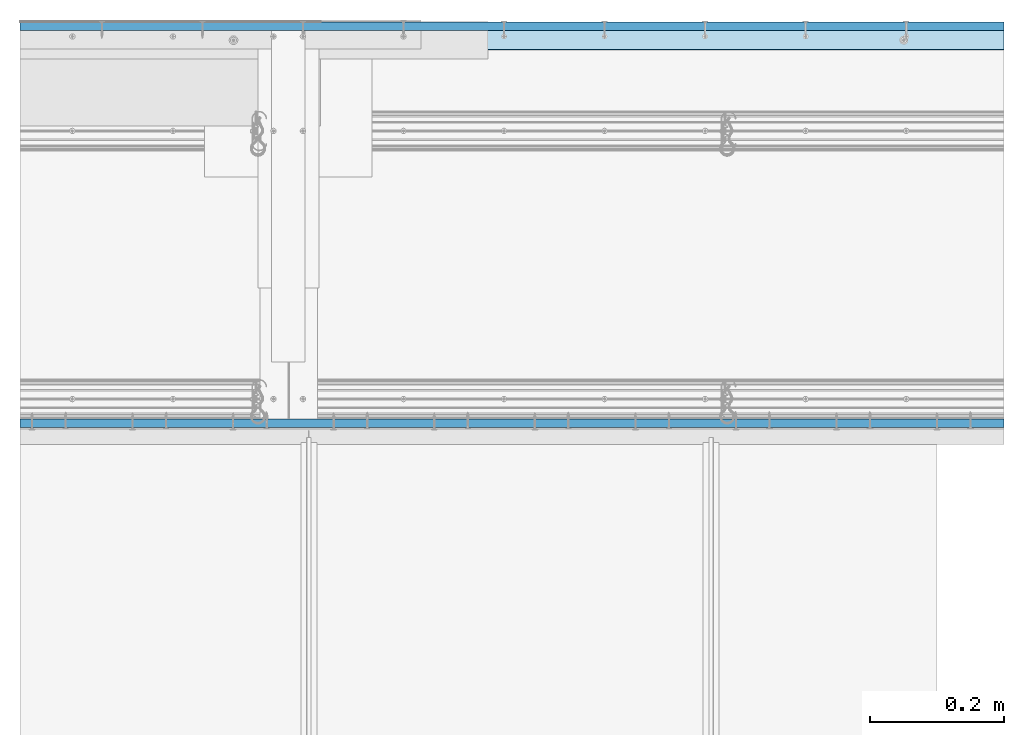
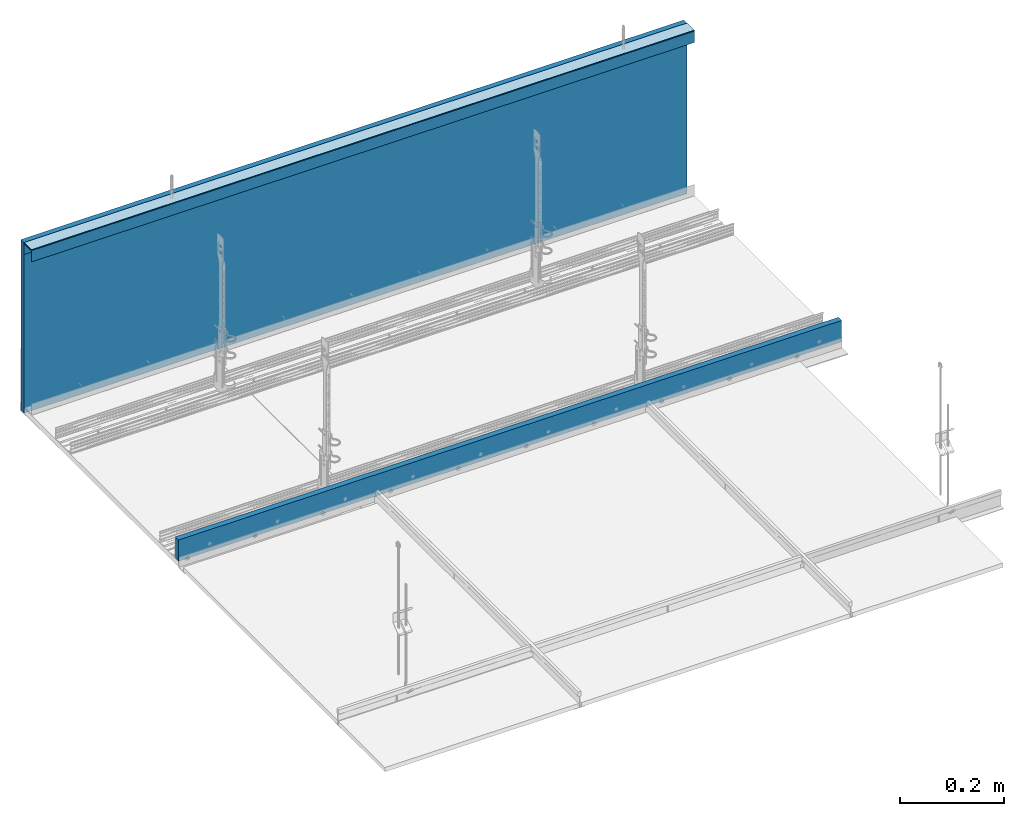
# One storey, part 2 of 79: 4 slabs.
"""IFC2X3 building model written with IfcOpenShell, lengths in millimetres."""

from ifc_helpers import new_model, entity, si_unit, converted_unit, direction, frame, origin, origin_with_axes, place, context, project, spatial, faceted_brep, element, save


model = new_model("IFC2X3")

# Units and contexts
model_context = context("Model", 3, precision=1e-05, world=origin(), true_north=direction((0.0, 1.0, 0.0)))
ifc_project = project(units=[si_unit("LENGTHUNIT", "METRE", prefix="MILLI"), si_unit("AREAUNIT", "SQUARE_METRE"), si_unit("VOLUMEUNIT", "CUBIC_METRE"), converted_unit("PLANEANGLEUNIT", "DEGREE", entity("IfcPlaneAngleMeasure", 0.01745), si_unit("PLANEANGLEUNIT", "RADIAN"), dimensions=[0, 0, 0, 0, 0, 0, 0]), si_unit("SOLIDANGLEUNIT", "STERADIAN"), si_unit("MASSUNIT", "GRAM"), si_unit("TIMEUNIT", "SECOND"), si_unit("THERMODYNAMICTEMPERATUREUNIT", "DEGREE_CELSIUS"), si_unit("LUMINOUSINTENSITYUNIT", "LUMEN")], contexts=[model_context])

# Site, building, storey
site_placement = place(None, origin_with_axes())
site = spatial("IfcSite", under=ifc_project, at=site_placement, Name="Default Site", CompositionType="ELEMENT")
building_placement = place(site_placement, origin_with_axes())
building = spatial("IfcBuilding", under=site, at=building_placement, Name="Default Building", CompositionType="ELEMENT")
storey_placement = place(building_placement, origin_with_axes())
storey = spatial("IfcBuildingStorey", under=building, at=storey_placement, Name="Default Building Storey", CompositionType="ELEMENT", Elevation=0.0)

# Slabs
slab_1_placement = place(storey_placement, frame((3375.515397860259, 4346.496456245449, 1386.219706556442), z_axis=(7.268591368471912e-14, -6.858158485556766e-13, 1.0), x_axis=(1.0, -1.018434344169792e-16, -7.98876711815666e-14)))
element("IfcSlab", 1, at=slab_1_placement, inside=storey, Name="Taśma uszczelniająca piankowa RIGIPS", context=model_context, shape_type="Brep", body=[
    faceted_brep([(217.5252203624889, -2125.073169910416, -5.000000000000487), (-1250.490264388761, -2125.073169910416, -5.000000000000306), (-1250.490264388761, -2125.016629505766, -5.864971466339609), (217.5252203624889, -2125.016629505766, -5.864971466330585), (-1250.490264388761, -2152.930534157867, -5.000000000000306), (-1250.490264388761, -2152.979821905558, -6.006369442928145), (217.5252203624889, -2152.979821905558, -6.006369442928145), (217.5252203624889, -2152.930534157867, -5.000000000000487)], [[[0, 1, 2, 3]], [[4, 5, 2, 1]], [[6, 7, 0, 3]], [[7, 4, 1, 0]], [[3, 2, 5, 6]], [[6, 5, 4, 7]]]),
])
slab_2_placement = place(storey_placement, frame((3326.808963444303, 2247.916634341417, 1090.835078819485), z_axis=(0.0, 3.330669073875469e-16, -1.0), x_axis=(1.0, 0.0, 0.0)))
element("IfcSlab", 2, at=slab_2_placement, inside=storey, Name="Płyta gipsowo-kartonowa RIGIPS PRO (4PRO™)", context=model_context, shape_type="Brep", body=[
    faceted_brep([(266.2316547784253, 26.00000000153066, -289.3782582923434), (266.2316547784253, 13.50000000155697, -289.3782582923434), (-1201.783829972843, 13.50000000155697, -289.3782582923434), (-1201.783829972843, 26.00000000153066, -289.3782582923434), (266.2316547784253, 13.50000000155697, 109.5498612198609), (-1201.783829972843, 13.50000000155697, 109.5498612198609), (266.2316547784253, 26.00000000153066, 109.5498612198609), (-1201.783829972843, 26.00000000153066, 109.5498612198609)], [[[0, 1, 2, 3]], [[1, 4, 5, 2]], [[4, 6, 7, 5]], [[6, 0, 3, 7]], [[7, 3, 2, 5]], [[0, 6, 4, 1]]]),
])
slab_3_placement = place(storey_placement, frame((4925.555743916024, 3691.282667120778, 1494.188337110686), z_axis=(-5.694276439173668e-14, -6.860206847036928e-13, -1.0), x_axis=(-1.0, -2.15429261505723e-15, 1.019744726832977e-13)))
element("IfcSlab", 3, at=slab_3_placement, inside=storey, Name="Profil RIGIPS UD 30 ULTRASTIL®", context=model_context, shape_type="Brep", body=[
    faceted_brep([(2800.530610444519, -1469.916032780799, 140.9749999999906), (2800.530610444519, -1469.3660327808, 140.9749999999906), (2800.530610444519, -1469.3660327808, 114.7749999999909), (2800.530610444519, -1469.375882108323, 114.6498524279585), (2800.530610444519, -1469.405187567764, 114.527786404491), (2800.530610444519, -1469.45322756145, 114.4118076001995), (2800.530610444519, -1469.518819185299, 114.304771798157), (2800.530610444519, -1469.600347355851, 114.2093145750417), (2800.530610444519, -1469.695804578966, 114.1277864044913), (2800.530610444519, -1469.802840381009, 114.0621947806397), (2800.530610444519, -1469.9188191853, 114.0141547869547), (2800.530610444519, -1470.040885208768, 113.9848493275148), (2800.530610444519, -1470.1660327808, 113.9749999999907), (2800.530610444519, -1472.0160327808, 113.9749999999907), (2800.530610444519, -1472.163550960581, 113.9887186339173), (2800.530610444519, -1472.306009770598, 114.0294040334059), (2800.530610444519, -1472.43852336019, 114.0956608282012), (2800.530610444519, -1472.556546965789, 114.1852166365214), (2800.530610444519, -1472.656032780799, 114.2949999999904), (2800.530610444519, -1473.6760327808, 115.654999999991), (2800.530610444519, -1473.775518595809, 115.76478336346), (2800.530610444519, -1473.89354220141, 115.8543391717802), (2800.530610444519, -1474.026055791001, 115.9205959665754), (2800.530610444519, -1474.168514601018, 115.9612813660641), (2800.530610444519, -1474.3160327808, 115.9749999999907), (2800.530610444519, -1493.6160327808, 115.9749999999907), (2800.530610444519, -1493.763550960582, 115.9612813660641), (2800.530610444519, -1493.906009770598, 115.9205959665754), (2800.530610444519, -1494.038523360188, 115.8543391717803), (2800.530610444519, -1494.156546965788, 115.76478336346), (2800.530610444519, -1494.2560327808, 115.654999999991), (2800.530610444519, -1495.276032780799, 114.2949999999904), (2800.530610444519, -1495.37551859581, 114.1852166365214), (2800.530610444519, -1495.493542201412, 114.0956608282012), (2800.530610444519, -1495.626055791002, 114.029404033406), (2800.530610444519, -1495.768514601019, 113.9887186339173), (2800.530610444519, -1495.9160327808, 113.9749999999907), (2800.530610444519, -1497.7660327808, 113.9749999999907), (2800.530610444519, -1497.891180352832, 113.9848493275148), (2800.530610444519, -1498.0132463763, 114.0141547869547), (2800.530610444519, -1498.129225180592, 114.0621947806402), (2800.530610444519, -1498.236260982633, 114.1277864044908), (2800.530610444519, -1498.331718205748, 114.2093145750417), (2800.530610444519, -1498.413246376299, 114.3047717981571), (2800.530610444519, -1498.478838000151, 114.4118076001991), (2800.530610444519, -1498.526877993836, 114.5277864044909), (2800.530610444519, -1498.556183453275, 114.6498524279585), (2800.530610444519, -1498.566032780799, 114.7749999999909), (2800.53061044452, -1498.566032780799, 140.9749999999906), (2800.53061044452, -1498.016032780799, 140.9749999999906), (2800.530610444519, -1498.016032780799, 114.7749999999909), (2800.530610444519, -1498.012954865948, 114.735891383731), (2800.530610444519, -1498.003796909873, 114.6977457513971), (2800.530610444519, -1497.988784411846, 114.6615023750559), (2800.530610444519, -1497.968287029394, 114.628053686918), (2800.530610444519, -1497.942809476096, 114.5982233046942), (2800.530610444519, -1497.912979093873, 114.5727457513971), (2800.530610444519, -1497.879530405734, 114.5522483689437), (2800.530610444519, -1497.843287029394, 114.5372358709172), (2800.530610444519, -1497.80514139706, 114.5280779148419), (2800.530610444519, -1497.7660327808, 114.5249999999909), (2800.530610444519, -1495.9160327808, 114.5249999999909), (2800.530610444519, -1495.869933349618, 114.5292870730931), (2800.530610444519, -1495.825414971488, 114.542001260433), (2800.530610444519, -1495.784004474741, 114.5627065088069), (2800.530610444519, -1495.747122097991, 114.5906926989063), (2800.530610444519, -1495.716032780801, 114.6249999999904), (2800.530610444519, -1494.6960327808, 115.9849999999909), (2800.530610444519, -1494.52815046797, 116.1702594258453), (2800.530610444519, -1494.328985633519, 116.3213848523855), (2800.530610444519, -1494.105368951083, 116.433193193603), (2800.530610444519, -1493.864969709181, 116.5018498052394), (2800.530610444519, -1493.6160327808, 116.5249999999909), (2800.530610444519, -1474.3160327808, 116.5249999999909), (2800.530610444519, -1474.067095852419, 116.5018498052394), (2800.530610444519, -1473.826696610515, 116.4331931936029), (2800.530610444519, -1473.60307992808, 116.3213848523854), (2800.530610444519, -1473.40391509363, 116.1702594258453), (2800.530610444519, -1473.2360327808, 115.9849999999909), (2800.530610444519, -1472.216032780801, 114.6249999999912), (2800.530610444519, -1472.184943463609, 114.5906926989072), (2800.530610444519, -1472.148061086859, 114.5627065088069), (2800.530610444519, -1472.106650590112, 114.5420012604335), (2800.530610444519, -1472.062132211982, 114.5292870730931), (2800.530610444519, -1472.0160327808, 114.5249999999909), (2800.530610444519, -1470.1660327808, 114.5249999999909), (2800.530610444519, -1470.12692416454, 114.5280779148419), (2800.530610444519, -1470.088778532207, 114.5372358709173), (2800.530610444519, -1470.052535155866, 114.5522483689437), (2800.530610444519, -1470.019086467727, 114.5727457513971), (2800.530610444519, -1469.989256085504, 114.5982233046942), (2800.530610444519, -1469.963778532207, 114.628053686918), (2800.530610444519, -1469.943281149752, 114.6615023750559), (2800.530610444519, -1469.928268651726, 114.6977457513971), (2800.530610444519, -1469.919110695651, 114.735891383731), (2800.530610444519, -1469.916032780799, 114.7749999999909), (1332.51512569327, -1469.366032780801, 114.7750000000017), (1332.515125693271, -1469.366032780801, 140.9750000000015), (1332.515125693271, -1469.916032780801, 140.9750000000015), (1332.51512569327, -1469.916032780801, 114.7750000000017), (1332.51512569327, -1469.919110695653, 114.7358913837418), (1332.51512569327, -1469.928268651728, 114.6977457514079), (1332.51512569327, -1469.943281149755, 114.6615023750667), (1332.51512569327, -1469.96377853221, 114.6280536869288), (1332.51512569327, -1469.989256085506, 114.598223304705), (1332.51512569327, -1470.019086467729, 114.5727457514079), (1332.51512569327, -1470.052535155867, 114.5522483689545), (1332.51512569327, -1470.088778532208, 114.5372358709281), (1332.51512569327, -1470.126924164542, 114.5280779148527), (1332.51512569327, -1470.166032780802, 114.5250000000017), (1332.51512569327, -1472.016032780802, 114.5250000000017), (1332.51512569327, -1472.062132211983, 114.5292870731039), (1332.51512569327, -1472.106650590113, 114.5420012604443), (1332.51512569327, -1472.14806108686, 114.5627065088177), (1332.51512569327, -1472.18494346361, 114.590692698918), (1332.51512569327, -1472.216032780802, 114.6250000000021), (1332.51512569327, -1473.236032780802, 115.9850000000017), (1332.51512569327, -1473.403915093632, 116.1702594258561), (1332.515125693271, -1473.603079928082, 116.3213848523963), (1332.515125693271, -1473.826696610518, 116.4331931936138), (1332.515125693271, -1474.067095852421, 116.5018498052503), (1332.515125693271, -1474.316032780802, 116.5250000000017), (1332.515125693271, -1493.616032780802, 116.5250000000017), (1332.515125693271, -1493.864969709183, 116.5018498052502), (1332.515125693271, -1494.105368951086, 116.4331931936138), (1332.515125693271, -1494.32898563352, 116.3213848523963), (1332.51512569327, -1494.528150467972, 116.1702594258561), (1332.51512569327, -1494.696032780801, 115.9850000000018), (1332.51512569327, -1495.716032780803, 114.6250000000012), (1332.51512569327, -1495.747122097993, 114.5906926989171), (1332.51512569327, -1495.784004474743, 114.5627065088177), (1332.51512569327, -1495.82541497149, 114.5420012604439), (1332.51512569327, -1495.86993334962, 114.5292870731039), (1332.51512569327, -1495.916032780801, 114.5250000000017), (1332.51512569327, -1497.766032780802, 114.5250000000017), (1332.51512569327, -1497.805141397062, 114.5280779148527), (1332.51512569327, -1497.843287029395, 114.5372358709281), (1332.51512569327, -1497.879530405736, 114.5522483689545), (1332.51512569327, -1497.912979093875, 114.5727457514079), (1332.51512569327, -1497.942809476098, 114.598223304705), (1332.51512569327, -1497.968287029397, 114.6280536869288), (1332.51512569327, -1497.988784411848, 114.6615023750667), (1332.51512569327, -1498.003796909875, 114.6977457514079), (1332.51512569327, -1498.01295486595, 114.7358913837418), (1332.51512569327, -1498.016032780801, 114.7750000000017), (1332.515125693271, -1498.016032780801, 140.9750000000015), (1332.515125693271, -1498.566032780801, 140.9750000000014), (1332.51512569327, -1498.566032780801, 114.7750000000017), (1332.51512569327, -1498.556183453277, 114.6498524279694), (1332.51512569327, -1498.526877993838, 114.5277864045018), (1332.51512569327, -1498.478838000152, 114.4118076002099), (1332.51512569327, -1498.413246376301, 114.3047717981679), (1332.51512569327, -1498.331718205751, 114.2093145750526), (1332.51512569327, -1498.236260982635, 114.1277864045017), (1332.51512569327, -1498.129225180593, 114.062194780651), (1332.51512569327, -1498.013246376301, 114.0141547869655), (1332.51512569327, -1497.891180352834, 113.9848493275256), (1332.51512569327, -1497.766032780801, 113.9750000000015), (1332.51512569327, -1495.916032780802, 113.9750000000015), (1332.51512569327, -1495.76851460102, 113.9887186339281), (1332.51512569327, -1495.626055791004, 114.0294040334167), (1332.51512569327, -1495.493542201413, 114.0956608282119), (1332.51512569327, -1495.375518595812, 114.1852166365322), (1332.51512569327, -1495.276032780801, 114.2950000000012), (1332.51512569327, -1494.256032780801, 115.6550000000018), (1332.51512569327, -1494.156546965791, 115.7647833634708), (1332.51512569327, -1494.03852336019, 115.8543391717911), (1332.51512569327, -1493.906009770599, 115.9205959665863), (1332.51512569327, -1493.763550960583, 115.9612813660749), (1332.51512569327, -1493.616032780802, 115.9750000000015), (1332.51512569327, -1474.316032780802, 115.9750000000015), (1332.51512569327, -1474.16851460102, 115.9612813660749), (1332.51512569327, -1474.026055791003, 115.9205959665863), (1332.51512569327, -1473.893542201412, 115.854339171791), (1332.51512569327, -1473.775518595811, 115.7647833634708), (1332.51512569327, -1473.676032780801, 115.6550000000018), (1332.51512569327, -1472.656032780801, 114.2950000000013), (1332.51512569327, -1472.556546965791, 114.1852166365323), (1332.51512569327, -1472.438523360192, 114.095660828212), (1332.51512569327, -1472.306009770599, 114.0294040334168), (1332.51512569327, -1472.163550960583, 113.9887186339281), (1332.51512569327, -1472.016032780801, 113.9750000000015), (1332.51512569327, -1470.166032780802, 113.9750000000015), (1332.51512569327, -1470.04088520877, 113.9848493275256), (1332.51512569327, -1469.918819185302, 114.0141547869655), (1332.51512569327, -1469.80284038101, 114.0621947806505), (1332.51512569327, -1469.695804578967, 114.1277864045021), (1332.51512569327, -1469.600347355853, 114.2093145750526), (1332.51512569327, -1469.518819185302, 114.3047717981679), (1332.51512569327, -1469.453227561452, 114.4118076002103), (1332.51512569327, -1469.405187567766, 114.5277864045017), (1332.51512569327, -1469.375882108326, 114.6498524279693)], [[[0, 1, 2, 3, 4, 5, 6, 7, 8, 9, 10, 11, 12, 13, 14, 15, 16, 17, 18, 19, 20, 21, 22, 23, 24, 25, 26, 27, 28, 29, 30, 31, 32, 33, 34, 35, 36, 37, 38, 39, 40, 41, 42, 43, 44, 45, 46, 47, 48, 49, 50, 51, 52, 53, 54, 55, 56, 57, 58, 59, 60, 61, 62, 63, 64, 65, 66, 67, 68, 69, 70, 71, 72, 73, 74, 75, 76, 77, 78, 79, 80, 81, 82, 83, 84, 85, 86, 87, 88, 89, 90, 91, 92, 93, 94, 95]], [[96, 97, 98, 99, 100, 101, 102, 103, 104, 105, 106, 107, 108, 109, 110, 111, 112, 113, 114, 115, 116, 117, 118, 119, 120, 121, 122, 123, 124, 125, 126, 127, 128, 129, 130, 131, 132, 133, 134, 135, 136, 137, 138, 139, 140, 141, 142, 143, 144, 145, 146, 147, 148, 149, 150, 151, 152, 153, 154, 155, 156, 157, 158, 159, 160, 161, 162, 163, 164, 165, 166, 167, 168, 169, 170, 171, 172, 173, 174, 175, 176, 177, 178, 179, 180, 181, 182, 183, 184, 185, 186, 187, 188, 189, 190, 191]], [[23, 171, 170, 24]], [[22, 172, 171, 23]], [[175, 174, 20, 19]], [[172, 22, 21, 173]], [[20, 174, 173, 21]], [[24, 170, 169, 25]], [[29, 165, 164, 30]], [[165, 29, 28, 166]], [[27, 167, 166, 28]], [[169, 168, 26, 25]], [[26, 168, 167, 27]], [[30, 164, 163, 31]], [[35, 159, 158, 36]], [[34, 160, 159, 35]], [[33, 32, 162, 161]], [[161, 160, 34, 33]], [[163, 162, 32, 31]], [[36, 158, 157, 37]], [[46, 45, 149, 148]], [[148, 147, 47, 46]], [[44, 150, 149, 45]], [[43, 42, 152, 151]], [[151, 150, 44, 43]], [[41, 40, 154, 153]], [[153, 152, 42, 41]], [[39, 155, 154, 40]], [[38, 37, 157, 156]], [[156, 155, 39, 38]], [[47, 147, 146, 48]], [[48, 146, 145, 49]], [[49, 145, 144, 50]], [[134, 60, 59, 135]], [[58, 136, 135, 59]], [[57, 137, 136, 58]], [[137, 57, 56, 138]], [[55, 139, 138, 56]], [[139, 55, 54, 140]], [[53, 141, 140, 54]], [[52, 142, 141, 53]], [[142, 52, 51, 143]], [[50, 144, 143, 51]], [[60, 134, 133, 61]], [[65, 129, 128, 66]], [[129, 65, 64, 130]], [[63, 131, 130, 64]], [[133, 132, 62, 61]], [[62, 132, 131, 63]], [[66, 128, 127, 67]], [[71, 123, 122, 72]], [[70, 69, 125, 124]], [[124, 123, 71, 70]], [[68, 126, 125, 69]], [[127, 126, 68, 67]], [[72, 122, 121, 73]], [[77, 117, 116, 78]], [[76, 118, 117, 77]], [[75, 74, 120, 119]], [[119, 118, 76, 75]], [[121, 120, 74, 73]], [[78, 116, 115, 79]], [[83, 111, 110, 84]], [[82, 112, 111, 83]], [[115, 114, 80, 79]], [[112, 82, 81, 113]], [[80, 114, 113, 81]], [[84, 110, 109, 85]], [[99, 95, 94, 100]], [[93, 101, 100, 94]], [[92, 102, 101, 93]], [[102, 92, 91, 103]], [[90, 104, 103, 91]], [[104, 90, 89, 105]], [[88, 106, 105, 89]], [[87, 107, 106, 88]], [[107, 87, 86, 108]], [[85, 109, 108, 86]], [[95, 99, 98, 0]], [[0, 98, 97, 1]], [[1, 97, 96, 2]], [[11, 10, 184, 183]], [[183, 182, 12, 11]], [[9, 185, 184, 10]], [[6, 5, 189, 188]], [[7, 6, 188, 187]], [[8, 7, 187, 186]], [[186, 185, 9, 8]], [[4, 190, 189, 5]], [[3, 2, 96, 191]], [[191, 190, 4, 3]], [[12, 182, 181, 13]], [[17, 177, 176, 18]], [[16, 15, 179, 178]], [[178, 177, 17, 16]], [[14, 180, 179, 15]], [[181, 180, 14, 13]], [[18, 176, 175, 19]]]),
])
slab_4_placement = place(storey_placement, frame((3326.808963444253, 1655.397765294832, 1103.33507881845), z_axis=(0.0, 3.330669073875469e-16, -1.0), x_axis=(1.0, 0.0, 0.0)))
element("IfcSlab", 4, at=slab_4_placement, inside=storey, Name="Płyta gipsowo-kartonowa RIGIPS PRO (4PRO™)", context=model_context, shape_type="Brep", body=[
    faceted_brep([(266.2316547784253, 26.00000000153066, 59.57771904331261), (266.2316547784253, 13.50000000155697, 59.57771904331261), (-1201.783829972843, 13.50000000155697, 59.57771904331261), (-1201.783829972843, 26.00000000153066, 59.57771904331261), (266.2316547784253, 13.50000000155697, 109.5498612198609), (-1201.783829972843, 13.50000000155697, 109.5498612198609), (266.2316547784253, 26.00000000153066, 109.5498612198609), (-1201.783829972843, 26.00000000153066, 109.5498612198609)], [[[0, 1, 2, 3]], [[1, 4, 5, 2]], [[4, 6, 7, 5]], [[6, 0, 3, 7]], [[7, 3, 2, 5]], [[0, 6, 4, 1]]]),
])

save(model, "model.ifc")
